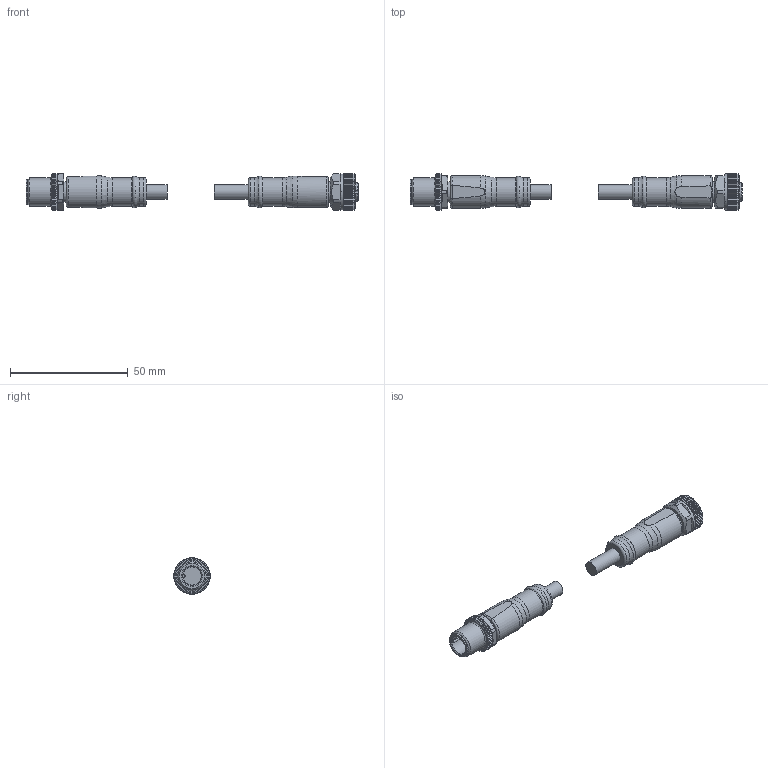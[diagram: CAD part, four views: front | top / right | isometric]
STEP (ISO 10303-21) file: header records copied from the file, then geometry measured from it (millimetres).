
FILE_DESCRIPTION( ( 'STEP AP203' ), '1' );
FILE_NAME( 'p:/temp/worker_16/temp/exporttempdir_3900_482_nG8tG/format_0/EVC716.stp', '2021-05-17T07:19:47', ( 'License CC BY-ND 4.0' ), ( 'CADENAS' ), ' ', 'PARTsolutions', ' ' );
FILE_SCHEMA( ( 'CONFIG_CONTROL_DESIGN' ) );
Length unit declared in the file: millimetre
Products named in the file (3): EVC716; _EVC716_part1; _EVC716_part2
Assembly tree (2 placements, depth 2):
  EVC716
    _EVC716_part1
    _EVC716_part2
Bounding box: 141.2 x 15.46 x 15.46 mm (x, y, z)
Volume: 13059.2 mm3; surface area: 6320.5 mm2
Topology: 2 solids, 2 shells, 481 faces, 1364 edges, 900 vertices
Faces by surface type: plane 411, torus 32, cylinder 25, cone 10, bspline 3
Full cylindrical faces by diameter (mm): 6.2 x2, 7.9 x1, 8.3 x1, 8.9 x2, 9.9 x1, 10.1 x1, 10.7 x1, 10.917 x1, 12 x1, 12.2 x4, 15.46 x2
Entity records: 16033 total; most frequent: CARTESIAN_POINT 3923, ORIENTED_EDGE 2622, DIRECTION 2332, EDGE_CURVE 1311, VERTEX_POINT 893, AXIS2_PLACEMENT_3D 838, LINE 656, VECTOR 656
